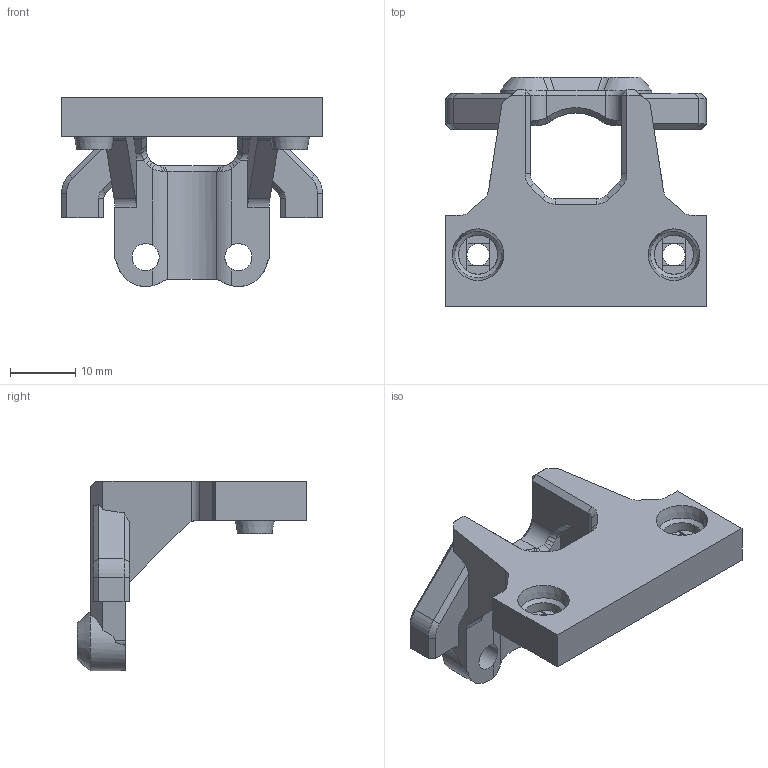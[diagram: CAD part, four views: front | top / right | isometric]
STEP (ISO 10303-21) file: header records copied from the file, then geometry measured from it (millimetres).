
FILE_DESCRIPTION(/* description */ (''),/* implementation_level */ '2;1');
FILE_NAME(/* name */ 'HMG7-Phaetus-Dragonfly-BMS-Mount.step',/* time_stamp */ '2022-11-01T21:54:07-07:00',/* author */ (''),/* organization */ (''),/* preprocessor_version */ 'ST-DEVELOPER v19.2',/* originating_system */ 'Autodesk Translation Framework v11.17.0.187',/* authorisation */ '');
FILE_SCHEMA (('AUTOMOTIVE_DESIGN { 1 0 10303 214 3 1 1 }'));
Length unit declared in the file: millimetre
Products named in the file (3): GEN_7_1.5; Dragonfly_BMS; BMS_Mount_Plate
Assembly tree (2 placements, depth 3):
  GEN_7_1.5
    Dragonfly_BMS
      BMS_Mount_Plate
Bounding box: 40 x 35.23 x 28.97 mm (x, y, z)
Volume: 7929.2 mm3; surface area: 4957.4 mm2
Topology: 1 solids, 1 shells, 199 faces, 526 edges, 327 vertices
Faces by surface type: plane 107, cylinder 37, cone 35, bspline 20
Full cylindrical faces by diameter (mm): 3.4 x2, 4.15 x2, 6 x2
Entity records: 6714 total; most frequent: CARTESIAN_POINT 1802, ORIENTED_EDGE 1052, DIRECTION 954, EDGE_CURVE 526, LINE 334, VECTOR 334, VERTEX_POINT 327, AXIS2_PLACEMENT_3D 310
